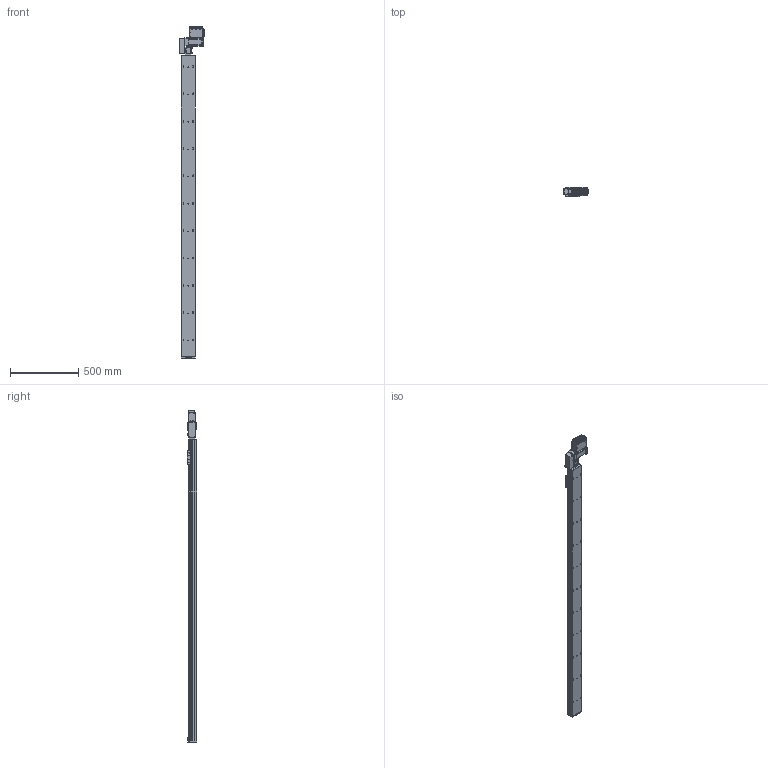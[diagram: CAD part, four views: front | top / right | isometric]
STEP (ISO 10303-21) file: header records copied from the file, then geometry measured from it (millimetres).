
FILE_DESCRIPTION (( 'STEP AP203' ), '1' );
FILE_NAME ('S10 TBN LH S2200.STEP', '2012-06-18T09:53:17', ( 'Conseil Régional Haute-Normandie' ), ( 'Conseil Régional Haute-Normandie' ), 'SwSTEP 2.0', 'SolidWorks 2010', '' );
FILE_SCHEMA (( 'CONFIG_CONTROL_DESIGN' ));
Products named in the file (30): T_X2_00F4_X0_le fond_3; Connecteur rond D10 3cts_5; Connecteur rond D12 4cts_5; Vis TF 3 torkx_1_1; Colonnette ronde_3; T_X2_00F4_X0_le Arri_X2_00E8_X0_re_5; T_X2_00F4_X0_le lat_X2_00E9_X0_rale_5; embout; S10 TBN LH S2200; palette tbn; Vis M5 L16-2_Default_1; Sub D 9cts 90_X2_00B_X0__3; axe 2200; axe 2200_Default; cache t皻e axe_Default; cache t皻e_Default; Cvis M5 L30_Default; plaque de bout s10_Default; Plaque racord_Default; BU41 Carte Alimentation P05_3; renvoi LH_Default; vis M5 L12_Default; vis M5 L5_Default; Assem1_7; Couvercle_3; T_X2_00F4_X0_le contre le moteur_5; Colonnette_3; BU45 Carte d''axe A11_5; Moteur 60BLDC90A_3; Radiateur profil_X2_00E9_X0_ 100x25_3
Assembly tree (63 placements, depth 3):
  S10 TBN LH S2200
    vis M5 L12_Default  x4
    plaque de bout s10_Default
    Cvis M5 L30_Default  x2
    vis M5 L5_Default  x4
    palette tbn
    Vis M5 L16-2_Default_1  x4
    axe 2200_Default
      axe 2200
    cache t皻e_Default  x2
    Plaque racord_Default
    renvoi LH_Default
    embout
    Assem1_7
      BU41 Carte Alimentation P05_3
      Vis TF 3 torkx_1_1  x21
      T_X2_00F4_X0_le Arri_X2_00E8_X0_re_5
      BU45 Carte d''axe A11_5
      Couvercle_3
      T_X2_00F4_X0_le fond_3
      Colonnette ronde_3
      Radiateur profil_X2_00E9_X0_ 100x25_3
      T_X2_00F4_X0_le lat_X2_00E9_X0_rale_5  x2
      Connecteur rond D10 3cts_5  x2
      Moteur 60BLDC90A_3
      T_X2_00F4_X0_le contre le moteur_5
      Connecteur rond D12 4cts_5
      Sub D 9cts 90_X2_00B_X0__3
      Colonnette_3  x2
    cache t皻e axe_Default
Bounding box: 189.8 x 66.75 x 2428.49 mm (x, y, z)
Volume: 12245553 mm3; surface area: 1346814.4 mm2
Topology: 61 solids, 61 shells, 2360 faces, 5844 edges, 3767 vertices
Faces by surface type: plane 1111, cylinder 1024, cone 182, bspline 40, torus 3
Entity records: 49584 total; most frequent: CARTESIAN_POINT 8903, DIRECTION 8037, ORIENTED_EDGE 7268, EDGE_CURVE 3634, AXIS2_PLACEMENT_3D 3000, VERTEX_POINT 2371, VECTOR 2037, LINE 2037
